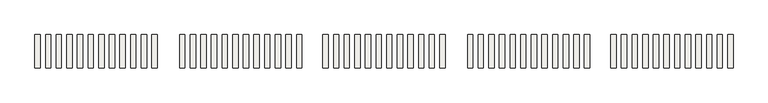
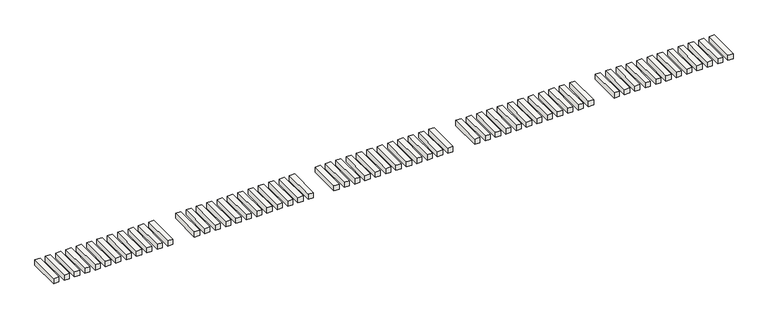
"""IFC4 building model written with IfcOpenShell, lengths in millimetres: slab geometry, REGUERA_METÁLICA5 : REGUERA_METÁLICA-03."""

from ifc_helpers import new_model, si_unit, frame, origin, place, context, project, spatial, polyline, outline, extrude, source, transform, mapped, element, save


def slab_22806a78(model_context):
    return source(origin(), model_context, "Body", "SweptSolid", [
        extrude(outline(polyline([(-10418.1440403, 8630.9816931), (-10370.5190403, 8630.9816931), (-10370.5190403, 8330.9816931), (-10418.1440403, 8330.9816931), (-10418.1440403, 8630.9816931)])), frame((0.0, 0.0, 1350.0), z_axis=(0.0, 0.0, 1.0), x_axis=(1.0, 0.0, 0.0)), (0.0, 0.0, 1.0), 50.0),
        extrude(outline(polyline([(-10513.3940403, 8630.9816931), (-10465.7690403, 8630.9816931), (-10465.7690403, 8330.9816931), (-10513.3940403, 8330.9816931), (-10513.3940403, 8630.9816931)])), frame((0.0, 0.0, 1350.0), z_axis=(0.0, 0.0, 1.0), x_axis=(1.0, 0.0, 0.0)), (0.0, 0.0, 1.0), 50.0),
        extrude(outline(polyline([(-10608.6440403, 8630.9816931), (-10561.0190403, 8630.9816931), (-10561.0190403, 8330.9816931), (-10608.6440403, 8330.9816931), (-10608.6440403, 8630.9816931)])), frame((0.0, 0.0, 1350.0), z_axis=(0.0, 0.0, 1.0), x_axis=(1.0, 0.0, 0.0)), (0.0, 0.0, 1.0), 50.0),
        extrude(outline(polyline([(-10703.8940403, 8630.9816931), (-10656.2690403, 8630.9816931), (-10656.2690403, 8330.9816931), (-10703.8940403, 8330.9816931), (-10703.8940403, 8630.9816931)])), frame((0.0, 0.0, 1350.0), z_axis=(0.0, 0.0, 1.0), x_axis=(1.0, 0.0, 0.0)), (0.0, 0.0, 1.0), 50.0),
        extrude(outline(polyline([(-10799.1440403, 8630.9816931), (-10751.5190403, 8630.9816931), (-10751.5190403, 8330.9816931), (-10799.1440403, 8330.9816931), (-10799.1440403, 8630.9816931)])), frame((0.0, 0.0, 1350.0), z_axis=(0.0, 0.0, 1.0), x_axis=(1.0, 0.0, 0.0)), (0.0, 0.0, 1.0), 50.0),
        extrude(outline(polyline([(-10894.3940403, 8630.9816931), (-10846.7690403, 8630.9816931), (-10846.7690403, 8330.9816931), (-10894.3940403, 8330.9816931), (-10894.3940403, 8630.9816931)])), frame((0.0, 0.0, 1350.0), z_axis=(0.0, 0.0, 1.0), x_axis=(1.0, 0.0, 0.0)), (0.0, 0.0, 1.0), 50.0),
        extrude(outline(polyline([(-10989.6440403, 8630.9816931), (-10942.0190403, 8630.9816931), (-10942.0190403, 8330.9816931), (-10989.6440403, 8330.9816931), (-10989.6440403, 8630.9816931)])), frame((0.0, 0.0, 1350.0), z_axis=(0.0, 0.0, 1.0), x_axis=(1.0, 0.0, 0.0)), (0.0, 0.0, 1.0), 50.0),
        extrude(outline(polyline([(-11084.8940403, 8630.9816931), (-11037.2690403, 8630.9816931), (-11037.2690403, 8330.9816931), (-11084.8940403, 8330.9816931), (-11084.8940403, 8630.9816931)])), frame((0.0, 0.0, 1350.0), z_axis=(0.0, 0.0, 1.0), x_axis=(1.0, 0.0, 0.0)), (0.0, 0.0, 1.0), 50.0),
        extrude(outline(polyline([(-11180.1440403, 8630.9816931), (-11132.5190403, 8630.9816931), (-11132.5190403, 8330.9816931), (-11180.1440403, 8330.9816931), (-11180.1440403, 8630.9816931)])), frame((0.0, 0.0, 1350.0), z_axis=(0.0, 0.0, 1.0), x_axis=(1.0, 0.0, 0.0)), (0.0, 0.0, 1.0), 50.0),
        extrude(outline(polyline([(-11275.3940403, 8630.9816931), (-11227.7690403, 8630.9816931), (-11227.7690403, 8330.9816931), (-11275.3940403, 8330.9816931), (-11275.3940403, 8630.9816931)])), frame((0.0, 0.0, 1350.0), z_axis=(0.0, 0.0, 1.0), x_axis=(1.0, 0.0, 0.0)), (0.0, 0.0, 1.0), 50.0),
        extrude(outline(polyline([(-11370.6440403, 8630.9816931), (-11323.0190403, 8630.9816931), (-11323.0190403, 8330.9816931), (-11370.6440403, 8330.9816931), (-11370.6440403, 8630.9816931)])), frame((0.0, 0.0, 1350.0), z_axis=(0.0, 0.0, 1.0), x_axis=(1.0, 0.0, 0.0)), (0.0, 0.0, 1.0), 50.0),
        extrude(outline(polyline([(-11465.8940403, 8630.9816931), (-11418.2690403, 8630.9816931), (-11418.2690403, 8330.9816931), (-11465.8940403, 8330.9816931), (-11465.8940403, 8630.9816931)])), frame((0.0, 0.0, 1350.0), z_axis=(0.0, 0.0, 1.0), x_axis=(1.0, 0.0, 0.0)), (0.0, 0.0, 1.0), 50.0),
        extrude(outline(polyline([(-10122.2452481, 8630.9816931), (-10122.2452481, 8330.9816931), (-10169.8702481, 8330.9816931), (-10169.8702481, 8630.9816931), (-10122.2452481, 8630.9816931)])), frame((0.0, 0.0, 1350.0), z_axis=(0.0, 0.0, 1.0), x_axis=(1.0, 0.0, 0.0)), (0.0, 0.0, 1.0), 50.0),
        extrude(outline(polyline([(-10026.9952481, 8630.9816931), (-10026.9952481, 8330.9816931), (-10074.6202481, 8330.9816931), (-10074.6202481, 8630.9816931), (-10026.9952481, 8630.9816931)])), frame((0.0, 0.0, 1350.0), z_axis=(0.0, 0.0, 1.0), x_axis=(1.0, 0.0, 0.0)), (0.0, 0.0, 1.0), 50.0),
        extrude(outline(polyline([(-9931.7452481, 8630.9816931), (-9931.7452481, 8330.9816931), (-9979.3702481, 8330.9816931), (-9979.3702481, 8630.9816931), (-9931.7452481, 8630.9816931)])), frame((0.0, 0.0, 1350.0), z_axis=(0.0, 0.0, 1.0), x_axis=(1.0, 0.0, 0.0)), (0.0, 0.0, 1.0), 50.0),
        extrude(outline(polyline([(-9836.4952481, 8630.9816931), (-9836.4952481, 8330.9816931), (-9884.1202481, 8330.9816931), (-9884.1202481, 8630.9816931), (-9836.4952481, 8630.9816931)])), frame((0.0, 0.0, 1350.0), z_axis=(0.0, 0.0, 1.0), x_axis=(1.0, 0.0, 0.0)), (0.0, 0.0, 1.0), 50.0),
        extrude(outline(polyline([(-9741.2452481, 8630.9816931), (-9741.2452481, 8330.9816931), (-9788.8702481, 8330.9816931), (-9788.8702481, 8630.9816931), (-9741.2452481, 8630.9816931)])), frame((0.0, 0.0, 1350.0), z_axis=(0.0, 0.0, 1.0), x_axis=(1.0, 0.0, 0.0)), (0.0, 0.0, 1.0), 50.0),
        extrude(outline(polyline([(-9645.9952481, 8630.9816931), (-9645.9952481, 8330.9816931), (-9693.6202481, 8330.9816931), (-9693.6202481, 8630.9816931), (-9645.9952481, 8630.9816931)])), frame((0.0, 0.0, 1350.0), z_axis=(0.0, 0.0, 1.0), x_axis=(1.0, 0.0, 0.0)), (0.0, 0.0, 1.0), 50.0),
        extrude(outline(polyline([(-9550.7452481, 8630.9816931), (-9550.7452481, 8330.9816931), (-9598.3702481, 8330.9816931), (-9598.3702481, 8630.9816931), (-9550.7452481, 8630.9816931)])), frame((0.0, 0.0, 1350.0), z_axis=(0.0, 0.0, 1.0), x_axis=(1.0, 0.0, 0.0)), (0.0, 0.0, 1.0), 50.0),
        extrude(outline(polyline([(-9455.4952481, 8630.9816931), (-9455.4952481, 8330.9816931), (-9503.1202481, 8330.9816931), (-9503.1202481, 8630.9816931), (-9455.4952481, 8630.9816931)])), frame((0.0, 0.0, 1350.0), z_axis=(0.0, 0.0, 1.0), x_axis=(1.0, 0.0, 0.0)), (0.0, 0.0, 1.0), 50.0),
        extrude(outline(polyline([(-9360.2452481, 8630.9816931), (-9360.2452481, 8330.9816931), (-9407.8702481, 8330.9816931), (-9407.8702481, 8630.9816931), (-9360.2452481, 8630.9816931)])), frame((0.0, 0.0, 1350.0), z_axis=(0.0, 0.0, 1.0), x_axis=(1.0, 0.0, 0.0)), (0.0, 0.0, 1.0), 50.0),
        extrude(outline(polyline([(-9264.9952481, 8630.9816931), (-9264.9952481, 8330.9816931), (-9312.6202481, 8330.9816931), (-9312.6202481, 8630.9816931), (-9264.9952481, 8630.9816931)])), frame((0.0, 0.0, 1350.0), z_axis=(0.0, 0.0, 1.0), x_axis=(1.0, 0.0, 0.0)), (0.0, 0.0, 1.0), 50.0),
        extrude(outline(polyline([(-9169.7452481, 8630.9816931), (-9169.7452481, 8330.9816931), (-9217.3702481, 8330.9816931), (-9217.3702481, 8630.9816931), (-9169.7452481, 8630.9816931)])), frame((0.0, 0.0, 1350.0), z_axis=(0.0, 0.0, 1.0), x_axis=(1.0, 0.0, 0.0)), (0.0, 0.0, 1.0), 50.0),
        extrude(outline(polyline([(-9074.4952481, 8630.9816931), (-9074.4952481, 8330.9816931), (-9122.1202481, 8330.9816931), (-9122.1202481, 8630.9816931), (-9074.4952481, 8630.9816931)])), frame((0.0, 0.0, 1350.0), z_axis=(0.0, 0.0, 1.0), x_axis=(1.0, 0.0, 0.0)), (0.0, 0.0, 1.0), 50.0),
        extrude(outline(polyline([(-7838.1440403, 8630.9816931), (-7790.5190403, 8630.9816931), (-7790.5190403, 8330.9816931), (-7838.1440403, 8330.9816931), (-7838.1440403, 8630.9816931)])), frame((0.0, 0.0, 1350.0), z_axis=(0.0, 0.0, 1.0), x_axis=(1.0, 0.0, 0.0)), (0.0, 0.0, 1.0), 50.0),
        extrude(outline(polyline([(-7933.3940403, 8630.9816931), (-7885.7690403, 8630.9816931), (-7885.7690403, 8330.9816931), (-7933.3940403, 8330.9816931), (-7933.3940403, 8630.9816931)])), frame((0.0, 0.0, 1350.0), z_axis=(0.0, 0.0, 1.0), x_axis=(1.0, 0.0, 0.0)), (0.0, 0.0, 1.0), 50.0),
        extrude(outline(polyline([(-8028.6440403, 8630.9816931), (-7981.0190403, 8630.9816931), (-7981.0190403, 8330.9816931), (-8028.6440403, 8330.9816931), (-8028.6440403, 8630.9816931)])), frame((0.0, 0.0, 1350.0), z_axis=(0.0, 0.0, 1.0), x_axis=(1.0, 0.0, 0.0)), (0.0, 0.0, 1.0), 50.0),
        extrude(outline(polyline([(-8123.8940403, 8630.9816931), (-8076.2690403, 8630.9816931), (-8076.2690403, 8330.9816931), (-8123.8940403, 8330.9816931), (-8123.8940403, 8630.9816931)])), frame((0.0, 0.0, 1350.0), z_axis=(0.0, 0.0, 1.0), x_axis=(1.0, 0.0, 0.0)), (0.0, 0.0, 1.0), 50.0),
        extrude(outline(polyline([(-8219.1440403, 8630.9816931), (-8171.5190403, 8630.9816931), (-8171.5190403, 8330.9816931), (-8219.1440403, 8330.9816931), (-8219.1440403, 8630.9816931)])), frame((0.0, 0.0, 1350.0), z_axis=(0.0, 0.0, 1.0), x_axis=(1.0, 0.0, 0.0)), (0.0, 0.0, 1.0), 50.0),
        extrude(outline(polyline([(-8314.3940403, 8630.9816931), (-8266.7690403, 8630.9816931), (-8266.7690403, 8330.9816931), (-8314.3940403, 8330.9816931), (-8314.3940403, 8630.9816931)])), frame((0.0, 0.0, 1350.0), z_axis=(0.0, 0.0, 1.0), x_axis=(1.0, 0.0, 0.0)), (0.0, 0.0, 1.0), 50.0),
        extrude(outline(polyline([(-8409.6440403, 8630.9816931), (-8362.0190403, 8630.9816931), (-8362.0190403, 8330.9816931), (-8409.6440403, 8330.9816931), (-8409.6440403, 8630.9816931)])), frame((0.0, 0.0, 1350.0), z_axis=(0.0, 0.0, 1.0), x_axis=(1.0, 0.0, 0.0)), (0.0, 0.0, 1.0), 50.0),
        extrude(outline(polyline([(-8504.8940403, 8630.9816931), (-8457.2690403, 8630.9816931), (-8457.2690403, 8330.9816931), (-8504.8940403, 8330.9816931), (-8504.8940403, 8630.9816931)])), frame((0.0, 0.0, 1350.0), z_axis=(0.0, 0.0, 1.0), x_axis=(1.0, 0.0, 0.0)), (0.0, 0.0, 1.0), 50.0),
        extrude(outline(polyline([(-8600.1440403, 8630.9816931), (-8552.5190403, 8630.9816931), (-8552.5190403, 8330.9816931), (-8600.1440403, 8330.9816931), (-8600.1440403, 8630.9816931)])), frame((0.0, 0.0, 1350.0), z_axis=(0.0, 0.0, 1.0), x_axis=(1.0, 0.0, 0.0)), (0.0, 0.0, 1.0), 50.0),
        extrude(outline(polyline([(-8695.3940403, 8630.9816931), (-8647.7690403, 8630.9816931), (-8647.7690403, 8330.9816931), (-8695.3940403, 8330.9816931), (-8695.3940403, 8630.9816931)])), frame((0.0, 0.0, 1350.0), z_axis=(0.0, 0.0, 1.0), x_axis=(1.0, 0.0, 0.0)), (0.0, 0.0, 1.0), 50.0),
        extrude(outline(polyline([(-8790.6440403, 8630.9816931), (-8743.0190403, 8630.9816931), (-8743.0190403, 8330.9816931), (-8790.6440403, 8330.9816931), (-8790.6440403, 8630.9816931)])), frame((0.0, 0.0, 1350.0), z_axis=(0.0, 0.0, 1.0), x_axis=(1.0, 0.0, 0.0)), (0.0, 0.0, 1.0), 50.0),
        extrude(outline(polyline([(-8885.8940403, 8630.9816931), (-8838.2690403, 8630.9816931), (-8838.2690403, 8330.9816931), (-8885.8940403, 8330.9816931), (-8885.8940403, 8630.9816931)])), frame((0.0, 0.0, 1350.0), z_axis=(0.0, 0.0, 1.0), x_axis=(1.0, 0.0, 0.0)), (0.0, 0.0, 1.0), 50.0),
        extrude(outline(polyline([(-7542.2452481, 8630.9816931), (-7542.2452481, 8330.9816931), (-7589.8702481, 8330.9816931), (-7589.8702481, 8630.9816931), (-7542.2452481, 8630.9816931)])), frame((0.0, 0.0, 1350.0), z_axis=(0.0, 0.0, 1.0), x_axis=(1.0, 0.0, 0.0)), (0.0, 0.0, 1.0), 50.0),
        extrude(outline(polyline([(-7446.9952481, 8630.9816931), (-7446.9952481, 8330.9816931), (-7494.6202481, 8330.9816931), (-7494.6202481, 8630.9816931), (-7446.9952481, 8630.9816931)])), frame((0.0, 0.0, 1350.0), z_axis=(0.0, 0.0, 1.0), x_axis=(1.0, 0.0, 0.0)), (0.0, 0.0, 1.0), 50.0),
        extrude(outline(polyline([(-7351.7452481, 8630.9816931), (-7351.7452481, 8330.9816931), (-7399.3702481, 8330.9816931), (-7399.3702481, 8630.9816931), (-7351.7452481, 8630.9816931)])), frame((0.0, 0.0, 1350.0), z_axis=(0.0, 0.0, 1.0), x_axis=(1.0, 0.0, 0.0)), (0.0, 0.0, 1.0), 50.0),
        extrude(outline(polyline([(-7256.4952481, 8630.9816931), (-7256.4952481, 8330.9816931), (-7304.1202481, 8330.9816931), (-7304.1202481, 8630.9816931), (-7256.4952481, 8630.9816931)])), frame((0.0, 0.0, 1350.0), z_axis=(0.0, 0.0, 1.0), x_axis=(1.0, 0.0, 0.0)), (0.0, 0.0, 1.0), 50.0),
        extrude(outline(polyline([(-7161.2452481, 8630.9816931), (-7161.2452481, 8330.9816931), (-7208.8702481, 8330.9816931), (-7208.8702481, 8630.9816931), (-7161.2452481, 8630.9816931)])), frame((0.0, 0.0, 1350.0), z_axis=(0.0, 0.0, 1.0), x_axis=(1.0, 0.0, 0.0)), (0.0, 0.0, 1.0), 50.0),
        extrude(outline(polyline([(-7065.9952481, 8630.9816931), (-7065.9952481, 8330.9816931), (-7113.6202481, 8330.9816931), (-7113.6202481, 8630.9816931), (-7065.9952481, 8630.9816931)])), frame((0.0, 0.0, 1350.0), z_axis=(0.0, 0.0, 1.0), x_axis=(1.0, 0.0, 0.0)), (0.0, 0.0, 1.0), 50.0),
        extrude(outline(polyline([(-6970.7452481, 8630.9816931), (-6970.7452481, 8330.9816931), (-7018.3702481, 8330.9816931), (-7018.3702481, 8630.9816931), (-6970.7452481, 8630.9816931)])), frame((0.0, 0.0, 1350.0), z_axis=(0.0, 0.0, 1.0), x_axis=(1.0, 0.0, 0.0)), (0.0, 0.0, 1.0), 50.0),
        extrude(outline(polyline([(-6875.4952481, 8630.9816931), (-6875.4952481, 8330.9816931), (-6923.1202481, 8330.9816931), (-6923.1202481, 8630.9816931), (-6875.4952481, 8630.9816931)])), frame((0.0, 0.0, 1350.0), z_axis=(0.0, 0.0, 1.0), x_axis=(1.0, 0.0, 0.0)), (0.0, 0.0, 1.0), 50.0),
        extrude(outline(polyline([(-6780.2452481, 8630.9816931), (-6780.2452481, 8330.9816931), (-6827.8702481, 8330.9816931), (-6827.8702481, 8630.9816931), (-6780.2452481, 8630.9816931)])), frame((0.0, 0.0, 1350.0), z_axis=(0.0, 0.0, 1.0), x_axis=(1.0, 0.0, 0.0)), (0.0, 0.0, 1.0), 50.0),
        extrude(outline(polyline([(-6684.9952481, 8630.9816931), (-6684.9952481, 8330.9816931), (-6732.6202481, 8330.9816931), (-6732.6202481, 8630.9816931), (-6684.9952481, 8630.9816931)])), frame((0.0, 0.0, 1350.0), z_axis=(0.0, 0.0, 1.0), x_axis=(1.0, 0.0, 0.0)), (0.0, 0.0, 1.0), 50.0),
        extrude(outline(polyline([(-6589.7452481, 8630.9816931), (-6589.7452481, 8330.9816931), (-6637.3702481, 8330.9816931), (-6637.3702481, 8630.9816931), (-6589.7452481, 8630.9816931)])), frame((0.0, 0.0, 1350.0), z_axis=(0.0, 0.0, 1.0), x_axis=(1.0, 0.0, 0.0)), (0.0, 0.0, 1.0), 50.0),
        extrude(outline(polyline([(-6494.4952481, 8630.9816931), (-6494.4952481, 8330.9816931), (-6542.1202481, 8330.9816931), (-6542.1202481, 8630.9816931), (-6494.4952481, 8630.9816931)])), frame((0.0, 0.0, 1350.0), z_axis=(0.0, 0.0, 1.0), x_axis=(1.0, 0.0, 0.0)), (0.0, 0.0, 1.0), 50.0),
        extrude(outline(polyline([(-5258.1440403, 8630.9816931), (-5210.5190403, 8630.9816931), (-5210.5190403, 8330.9816931), (-5258.1440403, 8330.9816931), (-5258.1440403, 8630.9816931)])), frame((0.0, 0.0, 1350.0), z_axis=(0.0, 0.0, 1.0), x_axis=(1.0, 0.0, 0.0)), (0.0, 0.0, 1.0), 50.0),
        extrude(outline(polyline([(-5353.3940403, 8630.9816931), (-5305.7690403, 8630.9816931), (-5305.7690403, 8330.9816931), (-5353.3940403, 8330.9816931), (-5353.3940403, 8630.9816931)])), frame((0.0, 0.0, 1350.0), z_axis=(0.0, 0.0, 1.0), x_axis=(1.0, 0.0, 0.0)), (0.0, 0.0, 1.0), 50.0),
        extrude(outline(polyline([(-5448.6440403, 8630.9816931), (-5401.0190403, 8630.9816931), (-5401.0190403, 8330.9816931), (-5448.6440403, 8330.9816931), (-5448.6440403, 8630.9816931)])), frame((0.0, 0.0, 1350.0), z_axis=(0.0, 0.0, 1.0), x_axis=(1.0, 0.0, 0.0)), (0.0, 0.0, 1.0), 50.0),
        extrude(outline(polyline([(-5543.8940403, 8630.9816931), (-5496.2690403, 8630.9816931), (-5496.2690403, 8330.9816931), (-5543.8940403, 8330.9816931), (-5543.8940403, 8630.9816931)])), frame((0.0, 0.0, 1350.0), z_axis=(0.0, 0.0, 1.0), x_axis=(1.0, 0.0, 0.0)), (0.0, 0.0, 1.0), 50.0),
        extrude(outline(polyline([(-5639.1440403, 8630.9816931), (-5591.5190403, 8630.9816931), (-5591.5190403, 8330.9816931), (-5639.1440403, 8330.9816931), (-5639.1440403, 8630.9816931)])), frame((0.0, 0.0, 1350.0), z_axis=(0.0, 0.0, 1.0), x_axis=(1.0, 0.0, 0.0)), (0.0, 0.0, 1.0), 50.0),
        extrude(outline(polyline([(-5734.3940403, 8630.9816931), (-5686.7690403, 8630.9816931), (-5686.7690403, 8330.9816931), (-5734.3940403, 8330.9816931), (-5734.3940403, 8630.9816931)])), frame((0.0, 0.0, 1350.0), z_axis=(0.0, 0.0, 1.0), x_axis=(1.0, 0.0, 0.0)), (0.0, 0.0, 1.0), 50.0),
        extrude(outline(polyline([(-5829.6440403, 8630.9816931), (-5782.0190403, 8630.9816931), (-5782.0190403, 8330.9816931), (-5829.6440403, 8330.9816931), (-5829.6440403, 8630.9816931)])), frame((0.0, 0.0, 1350.0), z_axis=(0.0, 0.0, 1.0), x_axis=(1.0, 0.0, 0.0)), (0.0, 0.0, 1.0), 50.0),
        extrude(outline(polyline([(-5924.8940403, 8630.9816931), (-5877.2690403, 8630.9816931), (-5877.2690403, 8330.9816931), (-5924.8940403, 8330.9816931), (-5924.8940403, 8630.9816931)])), frame((0.0, 0.0, 1350.0), z_axis=(0.0, 0.0, 1.0), x_axis=(1.0, 0.0, 0.0)), (0.0, 0.0, 1.0), 50.0),
        extrude(outline(polyline([(-6020.1440403, 8630.9816931), (-5972.5190403, 8630.9816931), (-5972.5190403, 8330.9816931), (-6020.1440403, 8330.9816931), (-6020.1440403, 8630.9816931)])), frame((0.0, 0.0, 1350.0), z_axis=(0.0, 0.0, 1.0), x_axis=(1.0, 0.0, 0.0)), (0.0, 0.0, 1.0), 50.0),
        extrude(outline(polyline([(-6115.3940403, 8630.9816931), (-6067.7690403, 8630.9816931), (-6067.7690403, 8330.9816931), (-6115.3940403, 8330.9816931), (-6115.3940403, 8630.9816931)])), frame((0.0, 0.0, 1350.0), z_axis=(0.0, 0.0, 1.0), x_axis=(1.0, 0.0, 0.0)), (0.0, 0.0, 1.0), 50.0),
        extrude(outline(polyline([(-6210.6440403, 8630.9816931), (-6163.0190403, 8630.9816931), (-6163.0190403, 8330.9816931), (-6210.6440403, 8330.9816931), (-6210.6440403, 8630.9816931)])), frame((0.0, 0.0, 1350.0), z_axis=(0.0, 0.0, 1.0), x_axis=(1.0, 0.0, 0.0)), (0.0, 0.0, 1.0), 50.0),
        extrude(outline(polyline([(-6305.8940403, 8630.9816931), (-6258.2690403, 8630.9816931), (-6258.2690403, 8330.9816931), (-6305.8940403, 8330.9816931), (-6305.8940403, 8630.9816931)])), frame((0.0, 0.0, 1350.0), z_axis=(0.0, 0.0, 1.0), x_axis=(1.0, 0.0, 0.0)), (0.0, 0.0, 1.0), 50.0),
    ])


if __name__ == "__main__":
    model = new_model("IFC4")
    model_context = context("Model", 3, world=origin())
    ifc_project = project(units=[si_unit("LENGTHUNIT", "METRE", prefix="MILLI")], contexts=[model_context])
    site = spatial("IfcSite", under=ifc_project)
    building = spatial("IfcBuilding", under=site)
    placement = place(None, origin())
    slab_shape = slab_22806a78(model_context)
    element("IfcSlab", 1, ObjectType="REGUERA_METÁLICA5 : REGUERA_METÁLICA-03", at=placement, inside=building, context=model_context, shape_type="MappedRepresentation", body=[
        mapped(slab_shape, transform((0.0, 0.0, 0.0), x_axis=(1.0, 0.0, 0.0), y_axis=(0.0, 1.0, 0.0), z_axis=(0.0, 0.0, 1.0))),
    ])
    save(model, "model.ifc")
